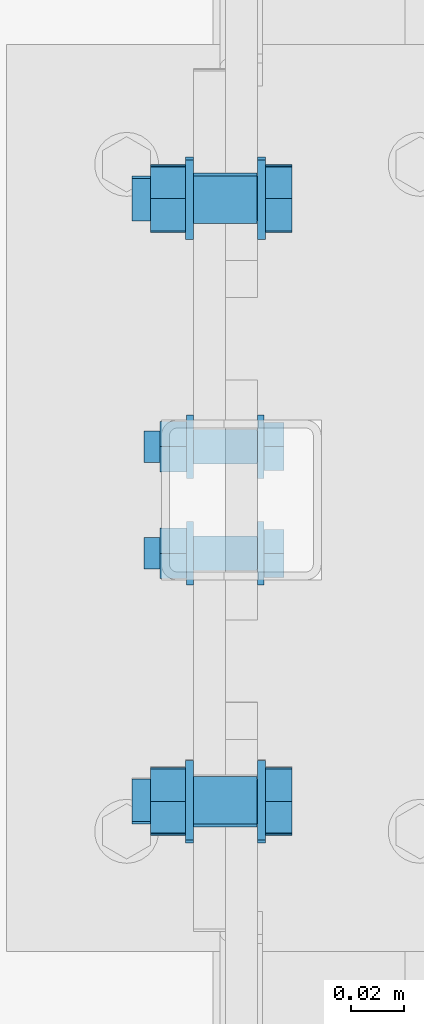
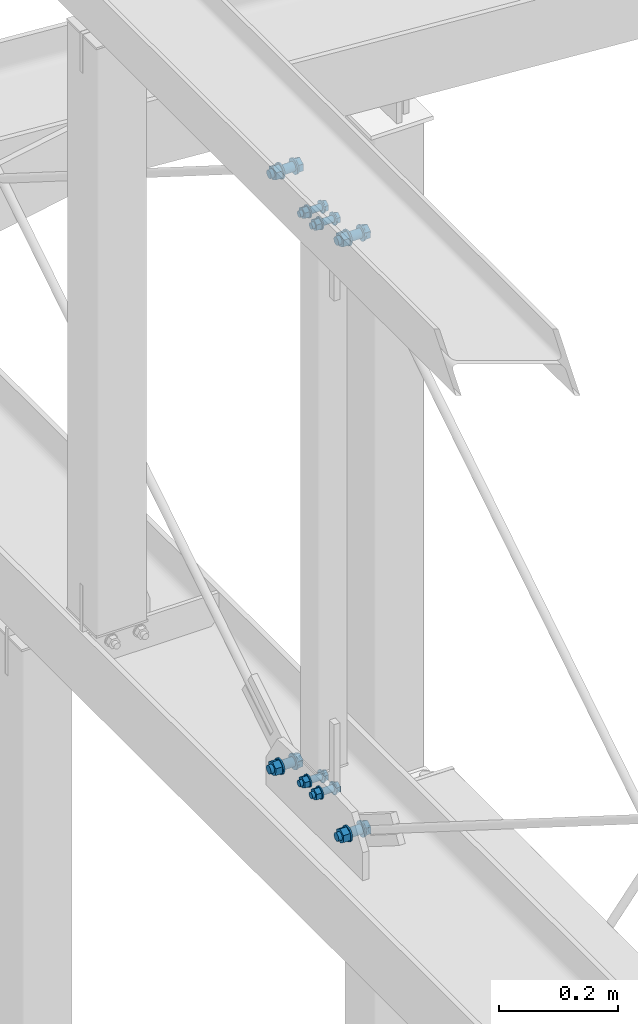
# One storey, part 233 of 271: 6 mechanical fasteners, 5 elements without a shape of their own.
"""IFC2X3 building model written with IfcOpenShell, lengths in millimetres."""

from ifc_helpers import new_model, si_unit, frame, origin_with_axes, origin_2d_with_axis, place, context, subcontext, project, spatial, polyline, circle, outline, extrude, source, transform, mapped, material, type_object, element, aggregate, save


model = new_model("IFC2X3")

# Units and contexts
model_context = context("Model", 3, precision=1e-05, world=origin_with_axes())
body_context = subcontext(model_context, "Body", "Model", "MODEL_VIEW")
ifc_project = project(units=[si_unit("LENGTHUNIT", "METRE", prefix="MILLI"), si_unit("AREAUNIT", "SQUARE_METRE"), si_unit("VOLUMEUNIT", "CUBIC_METRE"), si_unit("MASSUNIT", "GRAM", prefix="KILO"), si_unit("TIMEUNIT", "SECOND"), si_unit("PLANEANGLEUNIT", "RADIAN"), si_unit("SOLIDANGLEUNIT", "STERADIAN"), si_unit("THERMODYNAMICTEMPERATUREUNIT", "DEGREE_CELSIUS"), si_unit("LUMINOUSINTENSITYUNIT", "LUMEN")], contexts=[model_context])

# Site, building, storey
site_placement = place(None, origin_with_axes())
site = spatial("IfcSite", under=ifc_project, at=site_placement, Name="Undefined", CompositionType="ELEMENT")
building_placement = place(site_placement, origin_with_axes())
building = spatial("IfcBuilding", under=site, at=building_placement, Name="Undefined", CompositionType="ELEMENT")
storey_placement = place(building_placement, origin_with_axes())
storey = spatial("IfcBuildingStorey", under=building, at=storey_placement, Name="Undefined", CompositionType="ELEMENT", Elevation=0.0)

# Assembly, mechanical fastener
assembly_1_placement = place(storey_placement, origin_with_axes())
assembly_1 = element("IfcElementAssembly", 1, at=assembly_1_placement, inside=storey, AssemblyPlace="NOTDEFINED", PredefinedType="RIGID_FRAME")
ifc_material = material(Name="Undefined")
mechanical_fastener_type = type_object("IfcMechanicalFastenerType", Name="Bolt assembly")
shared_shape_1 = source(origin_with_axes(), body_context, "Body", "SweptSolid", [
    extrude(circle(Radius=9.0, at=origin_2d_with_axis()), frame((0.0, -6.1, 0.0), z_axis=(0.0, 1.0, 0.0), x_axis=(1.0, 0.0, 0.0)), (0.0, 0.0, 1.0), 12.1),
    extrude(circle(Radius=9.0, at=origin_2d_with_axis()), frame((0.0, -17.9, 0.0), z_axis=(0.0, 1.0, 0.0), x_axis=(1.0, 0.0, 0.0)), (0.0, 0.0, 1.0), 12.0),
    extrude(outline(polyline([(13.85640646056, 0.0), (6.92820323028, 12.0000000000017), (-6.92820323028, 12.0000000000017), (-13.85640646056, 0.0), (-6.92820323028, -12.0000000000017), (6.92820323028, -12.0000000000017), (13.85640646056, 0.0)])), frame((0.0, -31.0, 0.0), z_axis=(0.0, 1.0, 0.0), x_axis=(1.0, 0.0, 0.0)), (0.0, 0.0, 1.0), 10.0),
    extrude(circle(Radius=8.0, at=origin_2d_with_axis()), frame((0.0, -21.0, 0.0), z_axis=(0.0, 1.0, 0.0), x_axis=(1.0, 0.0, 0.0)), (0.0, 0.0, 1.0), 50.0),
    extrude(circle(Radius=15.0, at=origin_2d_with_axis()), frame((0.0, -21.0, 0.0), z_axis=(0.0, 1.0, 0.0), x_axis=(1.0, 0.0, 0.0)), (0.0, 0.0, 1.0), 3.0),
    extrude(circle(Radius=15.0, at=origin_2d_with_axis()), frame((0.0, 6.0, 0.0), z_axis=(0.0, 1.0, 0.0), x_axis=(1.0, 0.0, 0.0)), (0.0, 0.0, 1.0), 3.0),
    extrude(outline(polyline([(13.85640646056, 0.0), (6.92820323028, 12.0000000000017), (-6.92820323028, 12.0000000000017), (-13.85640646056, 0.0), (-6.92820323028, -12.0000000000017), (6.92820323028, -12.0000000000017), (13.85640646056, 0.0)])), frame((0.0, 9.0, 0.0), z_axis=(0.0, 1.0, 0.0), x_axis=(1.0, 0.0, 0.0)), (0.0, 0.0, 1.0), 13.0),
])
mechanical_fastener_1_placement = place(assembly_1_placement, frame((86.9999993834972, 2291.72879462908, 19933.4288072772), z_axis=(0.0, 0.533166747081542, 0.846010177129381), x_axis=(0.0, 0.846010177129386, -0.533166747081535)))
mechanical_fastener_1 = element("IfcMechanicalFastener", 2, at=mechanical_fastener_1_placement, type_object=mechanical_fastener_type, material=ifc_material, Name="Bolt assembly", NominalDiameter=16.0, NominalLength=50.0, context=body_context, shape_type="MappedRepresentation", body=[
    mapped(shared_shape_1, transform((0.0, 0.0, 0.0))),
])
aggregate(assembly_1, [mechanical_fastener_1])

assembly_2_placement = place(storey_placement, origin_with_axes())
assembly_2 = element("IfcElementAssembly", 3, at=assembly_2_placement, inside=storey, AssemblyPlace="NOTDEFINED", PredefinedType="RIGID_FRAME")
mechanical_fastener_2_placement = place(assembly_2_placement, frame((86.9999993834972, 2066.65830478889, 19933.4288062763), z_axis=(0.0, 0.533166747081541, -0.846010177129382), x_axis=(0.0, -0.846010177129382, -0.533166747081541)))
mechanical_fastener_2 = element("IfcMechanicalFastener", 4, at=mechanical_fastener_2_placement, type_object=mechanical_fastener_type, material=ifc_material, Name="Bolt assembly", NominalDiameter=16.0, NominalLength=50.0, context=body_context, shape_type="MappedRepresentation", body=[
    mapped(shared_shape_1, transform((0.0, 0.0, 0.0))),
])
aggregate(assembly_2, [mechanical_fastener_2])

assembly_3_placement = place(storey_placement, origin_with_axes())
assembly_3 = element("IfcElementAssembly", 5, at=assembly_3_placement, inside=storey, AssemblyPlace="NOTDEFINED", PredefinedType="RIGID_FRAME")
mechanical_fastener_3_placement = place(assembly_3_placement, frame((86.999999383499, 2065.62690989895, 18715.9211913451), z_axis=(0.0, -0.533166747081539, -0.846010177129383), x_axis=(0.0, -0.846010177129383, 0.533166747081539)))
mechanical_fastener_3 = element("IfcMechanicalFastener", 6, at=mechanical_fastener_3_placement, type_object=mechanical_fastener_type, material=ifc_material, Name="Bolt assembly", NominalDiameter=16.0, NominalLength=50.0, context=body_context, shape_type="MappedRepresentation", body=[
    mapped(shared_shape_1, transform((0.0, 0.0, 0.0))),
])
aggregate(assembly_3, [mechanical_fastener_3])

assembly_4_placement = place(storey_placement, origin_with_axes())
assembly_4 = element("IfcElementAssembly", 7, at=assembly_4_placement, inside=storey, AssemblyPlace="NOTDEFINED", PredefinedType="RIGID_FRAME")
mechanical_fastener_4_placement = place(assembly_4_placement, frame((86.999999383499, 2292.76019146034, 18715.9211915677), z_axis=(0.0, -0.533166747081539, 0.846010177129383), x_axis=(0.0, 0.846010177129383, 0.533166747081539)))
mechanical_fastener_4 = element("IfcMechanicalFastener", 8, at=mechanical_fastener_4_placement, type_object=mechanical_fastener_type, material=ifc_material, Name="Bolt assembly", NominalDiameter=16.0, NominalLength=50.0, context=body_context, shape_type="MappedRepresentation", body=[
    mapped(shared_shape_1, transform((0.0, 0.0, 0.0))),
])
aggregate(assembly_4, [mechanical_fastener_4])

# Assembly, mechanical fasteners
assembly_5_placement = place(storey_placement, origin_with_axes())
assembly_5 = element("IfcElementAssembly", 9, at=assembly_5_placement, inside=storey, AssemblyPlace="NOTDEFINED", PredefinedType="RIGID_FRAME")
shared_shape_2 = source(origin_with_axes(), body_context, "Body", "SweptSolid", [
    extrude(circle(Radius=6.5, at=origin_2d_with_axis()), frame((0.0, -6.1, 0.0), z_axis=(0.0, 1.0, 0.0), x_axis=(1.0, 0.0, 0.0)), (0.0, 0.0, 1.0), 12.1),
    extrude(circle(Radius=6.5, at=origin_2d_with_axis()), frame((0.0, -17.9, 0.0), z_axis=(0.0, 1.0, 0.0), x_axis=(1.0, 0.0, 0.0)), (0.0, 0.0, 1.0), 12.0),
    extrude(outline(polyline([(10.39230484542, 0.0), (5.19615242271, 9.00000000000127), (-5.19615242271, 9.00000000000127), (-10.39230484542, 0.0), (-5.19615242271, -9.00000000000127), (5.19615242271, -9.00000000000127), (10.39230484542, 0.0)])), frame((0.0, -28.0, 0.0), z_axis=(0.0, 1.0, 0.0), x_axis=(1.0, 0.0, 0.0)), (0.0, 0.0, 1.0), 7.5),
    extrude(circle(Radius=6.0, at=origin_2d_with_axis()), frame((0.0, -20.5, 0.0), z_axis=(0.0, 1.0, 0.0), x_axis=(1.0, 0.0, 0.0)), (0.0, 0.0, 1.0), 45.0),
    extrude(circle(Radius=12.0, at=origin_2d_with_axis()), frame((0.0, -20.5, 0.0), z_axis=(0.0, 1.0, 0.0), x_axis=(1.0, 0.0, 0.0)), (0.0, 0.0, 1.0), 2.5),
    extrude(circle(Radius=12.0, at=origin_2d_with_axis()), frame((0.0, 6.0, 0.0), z_axis=(0.0, 1.0, 0.0), x_axis=(1.0, 0.0, 0.0)), (0.0, 0.0, 1.0), 2.5),
    extrude(outline(polyline([(10.96965511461, 0.0), (5.484827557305, 9.50000000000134), (-5.484827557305, 9.50000000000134), (-10.96965511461, 0.0), (-5.484827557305, -9.50000000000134), (5.484827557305, -9.50000000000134), (10.96965511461, 0.0)])), frame((0.0, 8.5, 0.0), z_axis=(0.0, 1.0, 0.0), x_axis=(1.0, 0.0, 0.0)), (0.0, 0.0, 1.0), 10.0),
])
mechanical_fastener_5_placement = place(assembly_5_placement, frame((86.9999993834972, 2179.19355050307, 19906.4686765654), z_axis=(0.0, 1.0, 0.0), x_axis=(0.0, 0.0, -1.0)))
mechanical_fastener_5 = element("IfcMechanicalFastener", 10, at=mechanical_fastener_5_placement, type_object=mechanical_fastener_type, material=ifc_material, Name="Bolt assembly", NominalDiameter=12.0, NominalLength=45.0, context=body_context, shape_type="MappedRepresentation", body=[
    mapped(shared_shape_2, transform((0.0, 0.0, -20.0))),
    mapped(shared_shape_2, transform((0.0, 0.0, 20.0))),
])
mechanical_fastener_6_placement = place(assembly_5_placement, frame((86.999999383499, 2179.19355050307, 18742.649999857), z_axis=(0.0, -1.0, 0.0), x_axis=(0.0, 0.0, 1.0)))
mechanical_fastener_6 = element("IfcMechanicalFastener", 11, at=mechanical_fastener_6_placement, type_object=mechanical_fastener_type, material=ifc_material, Name="Bolt assembly", NominalDiameter=12.0, NominalLength=45.0, context=body_context, shape_type="MappedRepresentation", body=[
    mapped(shared_shape_2, transform((0.0, 0.0, -20.0))),
    mapped(shared_shape_2, transform((0.0, 0.0, 20.0))),
])
aggregate(assembly_5, [mechanical_fastener_5, mechanical_fastener_6])

save(model, "model.ifc")
